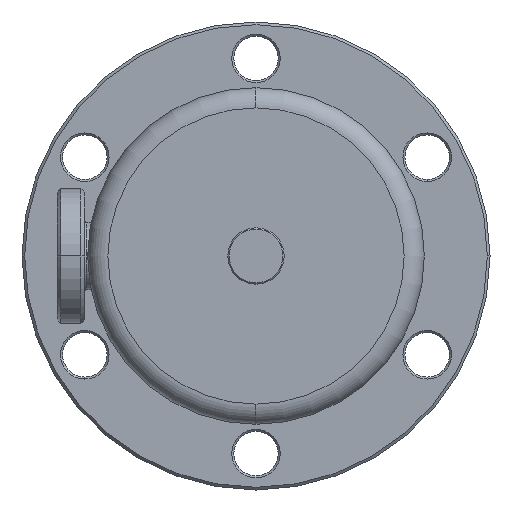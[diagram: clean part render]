
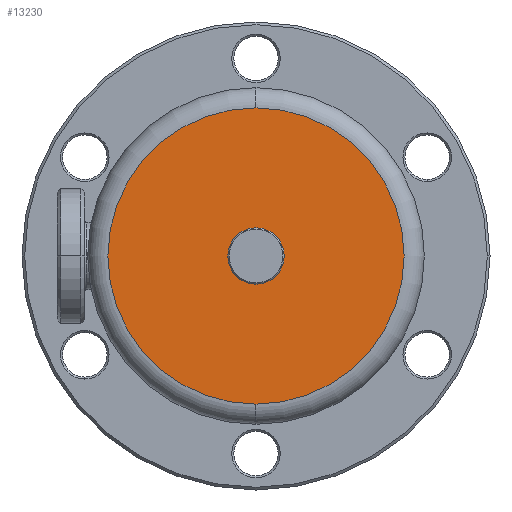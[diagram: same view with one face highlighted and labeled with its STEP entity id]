
A CAD part, left-side view. The second image highlights one B-rep face of the part: STEP entity #13230.
In plain terms, the highlighted planar face has unit normal (-1, 0, 0).
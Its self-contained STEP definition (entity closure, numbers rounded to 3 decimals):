
#11605=CARTESIAN_POINT('',(-68.9,0.,-22.0));
#11606=VERTEX_POINT('',#11605);
#11616=CARTESIAN_POINT('',(-68.9,22.0,0.));
#11617=VERTEX_POINT('',#11616);
#11618=CARTESIAN_POINT('',(-68.9,0.,0.));
#11619=DIRECTION('',(1.0,0.0,0.0));
#11620=DIRECTION('',(0.0,1.0,0.0));
#11621=AXIS2_PLACEMENT_3D('',#11618,#11619,#11620);
#11622=CIRCLE('',#11621,22.0);
#11623=EDGE_CURVE('',#11606,#11617,#11622,.T.);
#11625=CARTESIAN_POINT('',(-68.9,0.,22.0));
#11626=VERTEX_POINT('',#11625);
#11627=CARTESIAN_POINT('',(-68.9,0.,0.));
#11628=DIRECTION('',(1.0,0.0,0.0));
#11629=DIRECTION('',(0.0,1.0,0.0));
#11630=AXIS2_PLACEMENT_3D('',#11627,#11628,#11629);
#11631=CIRCLE('',#11630,22.0);
#11632=EDGE_CURVE('',#11617,#11626,#11631,.T.);
#11678=CARTESIAN_POINT('',(-68.9,0.,-4.188));
#11679=VERTEX_POINT('',#11678);
#11686=CARTESIAN_POINT('',(-68.9,0.,4.188));
#11687=VERTEX_POINT('',#11686);
#11688=CARTESIAN_POINT('',(-68.9,0.,0.));
#11689=DIRECTION('',(1.0,0.0,0.0));
#11690=DIRECTION('',(0.0,0.0,-1.0));
#11691=AXIS2_PLACEMENT_3D('',#11688,#11689,#11690);
#11692=CIRCLE('',#11691,4.188);
#11693=EDGE_CURVE('',#11687,#11679,#11692,.T.);
#13180=CARTESIAN_POINT('',(-68.9,0.,0.));
#13181=DIRECTION('',(1.0,0.0,0.0));
#13182=DIRECTION('',(0.0,0.0,-1.0));
#13183=AXIS2_PLACEMENT_3D('',#13180,#13181,#13182);
#13184=CIRCLE('',#13183,4.188);
#13185=EDGE_CURVE('',#11679,#11687,#13184,.T.);
#13210=CARTESIAN_POINT('',(-68.9,11.0,0.));
#13211=DIRECTION('',(-1.0,0.0,0.0));
#13212=DIRECTION('',(0.0,0.0,1.0));
#13213=AXIS2_PLACEMENT_3D('',#13210,#13211,#13212);
#13214=PLANE('',#13213);
#13215=ORIENTED_EDGE('',*,*,#11632,.F.);
#13216=ORIENTED_EDGE('',*,*,#11623,.F.);
#13217=CARTESIAN_POINT('',(-68.9,0.,0.));
#13218=DIRECTION('',(1.0,0.0,0.0));
#13219=DIRECTION('',(0.0,1.0,0.0));
#13220=AXIS2_PLACEMENT_3D('',#13217,#13218,#13219);
#13221=CIRCLE('',#13220,22.0);
#13222=EDGE_CURVE('',#11626,#11606,#13221,.T.);
#13223=ORIENTED_EDGE('',*,*,#13222,.F.);
#13224=EDGE_LOOP('',(#13215,#13216,#13223));
#13225=FACE_OUTER_BOUND('',#13224,.T.);
#13226=ORIENTED_EDGE('',*,*,#13185,.T.);
#13227=ORIENTED_EDGE('',*,*,#11693,.T.);
#13228=EDGE_LOOP('',(#13226,#13227));
#13229=FACE_BOUND('',#13228,.T.);
#13230=ADVANCED_FACE('',(#13225,#13229),#13214,.T.);
